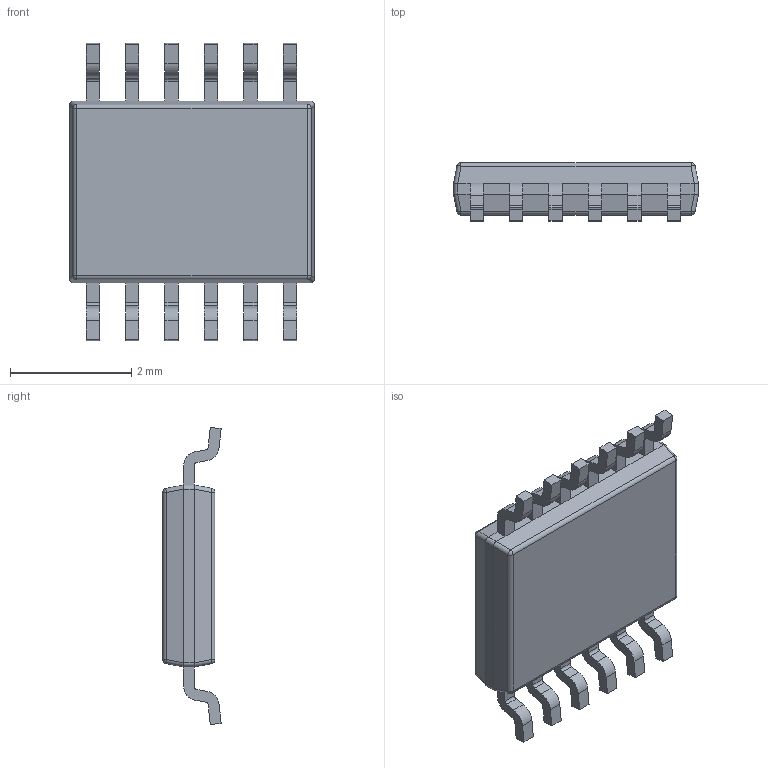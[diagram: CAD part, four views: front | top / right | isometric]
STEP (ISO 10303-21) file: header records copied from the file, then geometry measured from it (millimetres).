
FILE_DESCRIPTION (( 'STEP AP214' ), '1' );
FILE_NAME ('LT2940CMSTRPBF.STEP', '2022-07-07T09:05:03', ( '' ), ( '' ), 'SwSTEP 2.0', 'SolidWorks 2018', '' );
FILE_SCHEMA (( 'AUTOMOTIVE_DESIGN' ));
Length unit declared in the file: millimetre
Products named in the file (1): LT2940CMSTRPBF
Bounding box: 4.04 x 0.96 x 4.9 mm (x, y, z)
Volume: 10.7 mm3; surface area: 45.5 mm2
Topology: 1 solids, 1 shells, 213 faces, 566 edges, 348 vertices
Faces by surface type: plane 135, cylinder 70, sphere 8
Entity records: 8190 total; most frequent: CARTESIAN_POINT 1192, ORIENTED_EDGE 1116, DIRECTION 1086, EDGE_CURVE 558, LINE 410, VECTOR 410, VERTEX_POINT 348, AXIS2_PLACEMENT_3D 338
